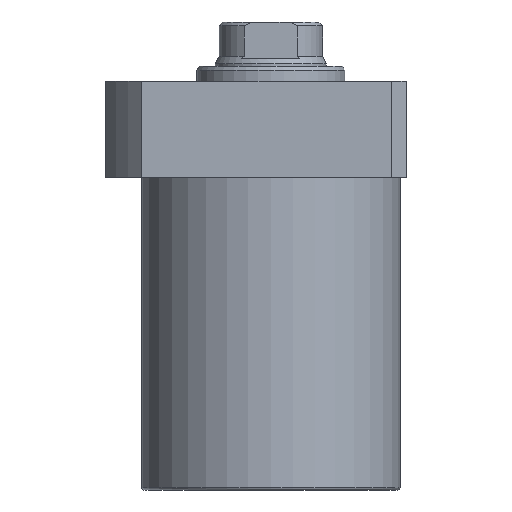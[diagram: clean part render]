
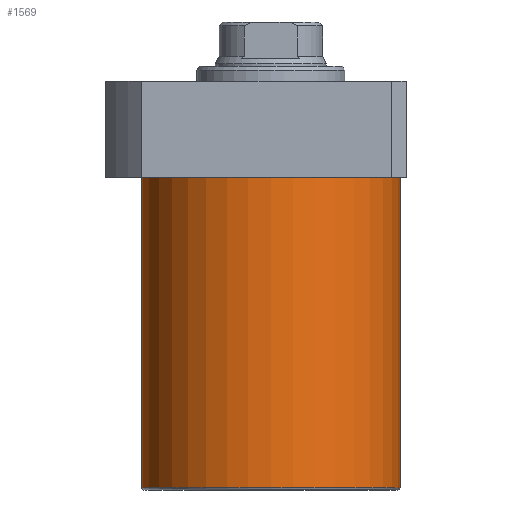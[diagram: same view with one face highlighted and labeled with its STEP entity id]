
A CAD part, front view. The second image highlights one B-rep face of the part: STEP entity #1569.
In plain terms, the highlighted cylindrical face has radius 52.5 mm (diameter 105 mm), a partial arc.
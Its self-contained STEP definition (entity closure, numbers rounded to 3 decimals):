
#33 = VERTEX_POINT ( 'NONE', #595 ) ;
#39 = CARTESIAN_POINT ( 'NONE',  ( 52.5, 0., -145.5 ) ) ;
#47 = FACE_OUTER_BOUND ( 'NONE', #565, .T. ) ;
#180 = VECTOR ( 'NONE', #1032, 1000. ) ;
#241 = AXIS2_PLACEMENT_3D ( 'NONE', #1467, #848, #1664 ) ;
#273 = VERTEX_POINT ( 'NONE', #794 ) ;
#325 = CARTESIAN_POINT ( 'NONE',  ( 0., 0., -19.5 ) ) ;
#378 = ORIENTED_EDGE ( 'NONE', *, *, #1806, .T. ) ;
#415 = AXIS2_PLACEMENT_3D ( 'NONE', #325, #1104, #1548 ) ;
#486 = CARTESIAN_POINT ( 'NONE',  ( -52.5, 0., -146.5 ) ) ;
#565 = EDGE_LOOP ( 'NONE', ( #717, #1468, #1024, #378 ) ) ;
#595 = CARTESIAN_POINT ( 'NONE',  ( 52.5, 0., -19.5 ) ) ;
#717 = ORIENTED_EDGE ( 'NONE', *, *, #1333, .F. ) ;
#729 = LINE ( 'NONE', #1645, #180 ) ;
#794 = CARTESIAN_POINT ( 'NONE',  ( -52.5, 0., -19.5 ) ) ;
#797 = VERTEX_POINT ( 'NONE', #39 ) ;
#798 = AXIS2_PLACEMENT_3D ( 'NONE', #1608, #854, #1147 ) ;
#848 = DIRECTION ( 'NONE',  ( 0., 0., 1. ) ) ;
#854 = DIRECTION ( 'NONE',  ( 0., 0., 1. ) ) ;
#1024 = ORIENTED_EDGE ( 'NONE', *, *, #1078, .T. ) ;
#1032 = DIRECTION ( 'NONE',  ( 0., 0., 1. ) ) ;
#1078 = EDGE_CURVE ( 'NONE', #797, #33, #729, .T. ) ;
#1085 = DIRECTION ( 'NONE',  ( 0., 0., 1. ) ) ;
#1104 = DIRECTION ( 'NONE',  ( 0., 0., -1. ) ) ;
#1147 = DIRECTION ( 'NONE',  ( -1., 0., 0. ) ) ;
#1252 = VERTEX_POINT ( 'NONE', #1534 ) ;
#1262 = CIRCLE ( 'NONE', #415, 52.5 ) ;
#1333 = EDGE_CURVE ( 'NONE', #1252, #273, #1972, .T. ) ;
#1467 = CARTESIAN_POINT ( 'NONE',  ( 0., 0., -146.5 ) ) ;
#1468 = ORIENTED_EDGE ( 'NONE', *, *, #1577, .T. ) ;
#1521 = VECTOR ( 'NONE', #1085, 1000. ) ;
#1534 = CARTESIAN_POINT ( 'NONE',  ( -52.5, 0., -145.5 ) ) ;
#1548 = DIRECTION ( 'NONE',  ( 1., 0., 0. ) ) ;
#1568 = CYLINDRICAL_SURFACE ( 'NONE', #241, 52.5 ) ;
#1569 = ADVANCED_FACE ( 'NONE', ( #47 ), #1568, .T. ) ;
#1577 = EDGE_CURVE ( 'NONE', #1252, #797, #1925, .T. ) ;
#1608 = CARTESIAN_POINT ( 'NONE',  ( 0., 0., -145.5 ) ) ;
#1645 = CARTESIAN_POINT ( 'NONE',  ( 52.5, 0., -146.5 ) ) ;
#1664 = DIRECTION ( 'NONE',  ( 1., 0., 0. ) ) ;
#1806 = EDGE_CURVE ( 'NONE', #33, #273, #1262, .T. ) ;
#1925 = CIRCLE ( 'NONE', #798, 52.5 ) ;
#1972 = LINE ( 'NONE', #486, #1521 ) ;
